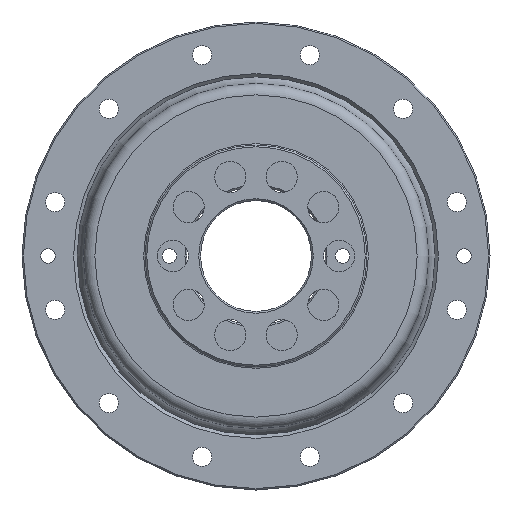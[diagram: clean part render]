
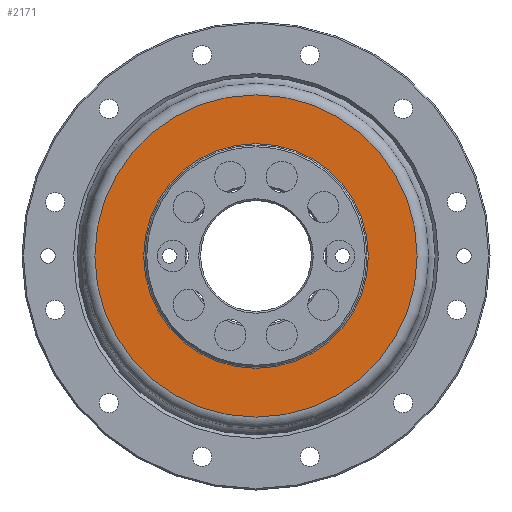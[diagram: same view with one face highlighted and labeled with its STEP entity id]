
A CAD part, left-side view. The second image highlights one B-rep face of the part: STEP entity #2171.
In plain terms, the highlighted planar face has unit normal (-1, 0, 0).
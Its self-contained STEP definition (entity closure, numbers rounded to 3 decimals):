
#371 = ORIENTED_EDGE ( 'NONE', *, *, #9299, .T. ) ;
#1645 = CARTESIAN_POINT ( 'NONE',  ( 2.3, 0., 0. ) ) ;
#1965 = AXIS2_PLACEMENT_3D ( 'NONE', #2723, #8072, #3504 ) ;
#2171 = ADVANCED_FACE ( 'NONE', ( #5733, #3899 ), #9616, .T. ) ;
#2424 = DIRECTION ( 'NONE',  ( 0., 1., 0. ) ) ;
#2723 = CARTESIAN_POINT ( 'NONE',  ( 2.3, 0., 0. ) ) ;
#2949 = AXIS2_PLACEMENT_3D ( 'NONE', #8667, #4051, #9437 ) ;
#3067 = VERTEX_POINT ( 'NONE', #8895 ) ;
#3084 = AXIS2_PLACEMENT_3D ( 'NONE', #1645, #7021, #2424 ) ;
#3411 = CARTESIAN_POINT ( 'NONE',  ( 2.3, 46.485, 0. ) ) ;
#3504 = DIRECTION ( 'NONE',  ( 0., 1., 0. ) ) ;
#3677 = VERTEX_POINT ( 'NONE', #3411 ) ;
#3899 = FACE_OUTER_BOUND ( 'NONE', #7825, .T. ) ;
#4051 = DIRECTION ( 'NONE',  ( -1., 0., 0. ) ) ;
#4943 = CIRCLE ( 'NONE', #2949, 46.485 ) ;
#5134 = EDGE_CURVE ( 'NONE', #3677, #3677, #4943, .T. ) ;
#5733 = FACE_BOUND ( 'NONE', #7265, .T. ) ;
#6228 = ORIENTED_EDGE ( 'NONE', *, *, #5134, .T. ) ;
#7021 = DIRECTION ( 'NONE',  ( 1., 0., 0. ) ) ;
#7265 = EDGE_LOOP ( 'NONE', ( #371 ) ) ;
#7454 = CIRCLE ( 'NONE', #3084, 32.4 ) ;
#7825 = EDGE_LOOP ( 'NONE', ( #6228 ) ) ;
#8072 = DIRECTION ( 'NONE',  ( -1., 0., 0. ) ) ;
#8667 = CARTESIAN_POINT ( 'NONE',  ( 2.3, 0., 0. ) ) ;
#8895 = CARTESIAN_POINT ( 'NONE',  ( 2.3, 32.4, 0. ) ) ;
#9299 = EDGE_CURVE ( 'NONE', #3067, #3067, #7454, .T. ) ;
#9437 = DIRECTION ( 'NONE',  ( 0., 1., 0. ) ) ;
#9616 = PLANE ( 'NONE',  #1965 ) ;
